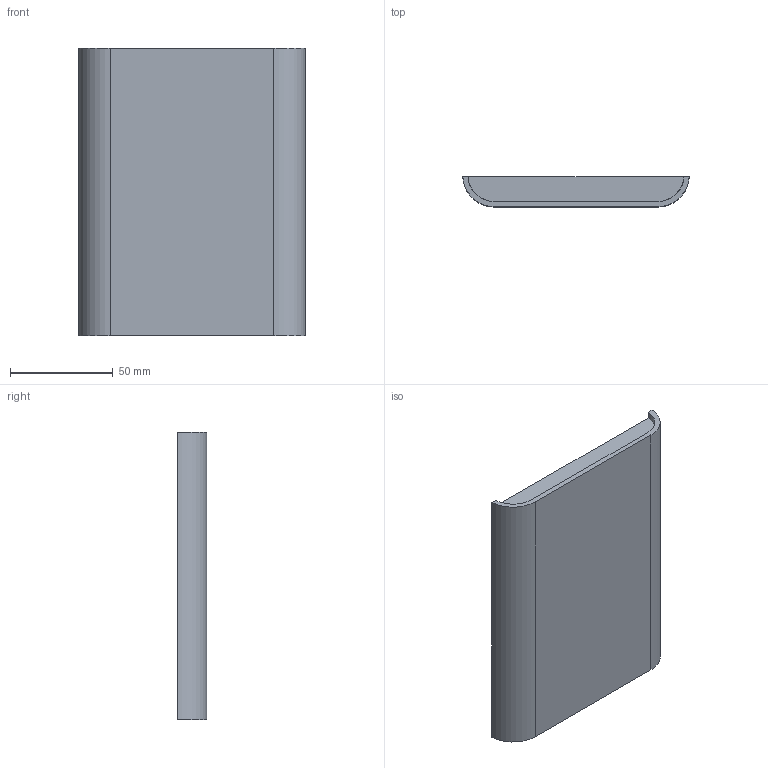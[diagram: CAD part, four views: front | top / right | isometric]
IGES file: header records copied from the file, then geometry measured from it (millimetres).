
Global section: file name: No Iges File Name specified; native system: Autodesk Inventor 2011; preprocessor: AutoDesk Inventor Iges Exporter R2011; author: tcook; date: 20101101.154601; units: inch
Bounding box: 109.98 x 14.48 x 139.7 mm (x, y, z)
Volume: 46280.3 mm3; surface area: 40132 mm2
Topology: 1 solids, 1 shells, 85 faces, 198 edges, 116 vertices
Faces by surface type: plane 45, bspline 26, revolution 10, cylinder 4
